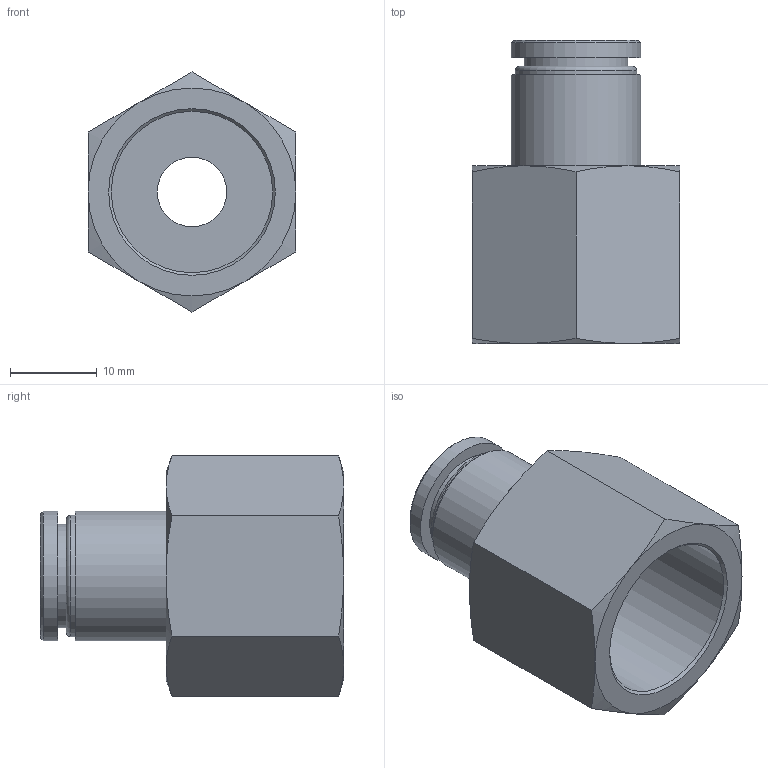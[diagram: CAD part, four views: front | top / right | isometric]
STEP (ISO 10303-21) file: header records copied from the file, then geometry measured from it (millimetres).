
FILE_DESCRIPTION(/* description */ (''),/* implementation_level */ '2;1');
FILE_NAME(/* name */ 'LXH14 0010 B4.stp',/* time_stamp */ '2026-04-27T19:02:03+02:00',/* author */ ('freju'),/* organization */ (''),/* preprocessor_version */ 'ST-DEVELOPER v20.1',/* originating_system */ 'Autodesk Inventor 2026',/* authorisation */ '');
FILE_SCHEMA (('AUTOMOTIVE_DESIGN { 1 0 10303 214 3 1 1 }'));
Length unit declared in the file: millimetre
Products named in the file (1): LXH14 0010 B4
Bounding box: 24 x 35 x 27.71 mm (x, y, z)
Volume: 7173.3 mm3; surface area: 4819.8 mm2
Topology: 1 solids, 1 shells, 36 faces, 72 edges, 44 vertices
Faces by surface type: plane 14, cone 14, cylinder 7, torus 1
Full cylindrical faces by diameter (mm): 8 x1, 10 x1, 12 x1, 14 x1, 15 x2, 18.631 x1
Entity records: 956 total; most frequent: CARTESIAN_POINT 201, DIRECTION 155, ORIENTED_EDGE 144, EDGE_CURVE 72, AXIS2_PLACEMENT_3D 70, EDGE_LOOP 44, VERTEX_POINT 44, FACE_OUTER_BOUND 36
